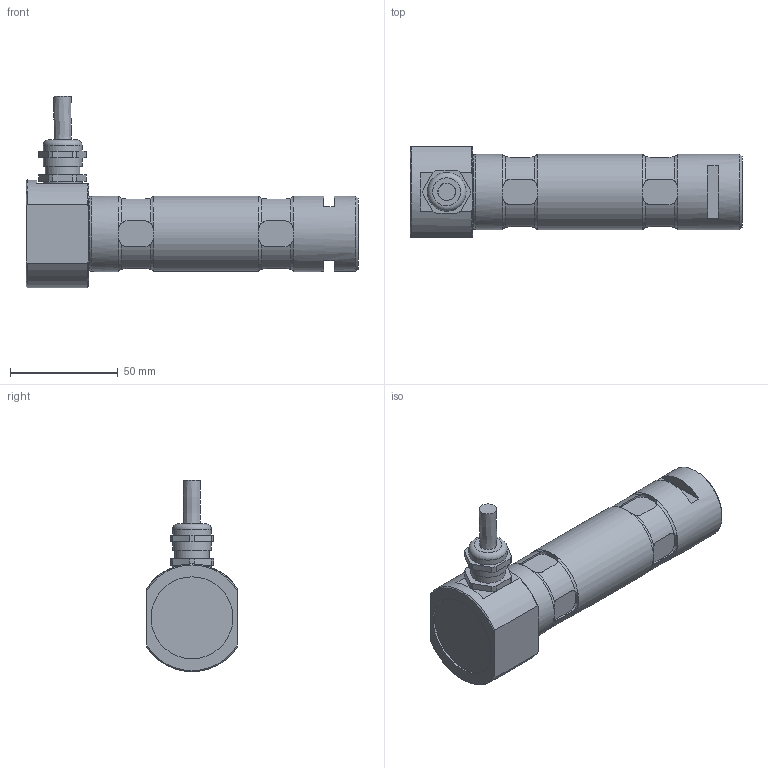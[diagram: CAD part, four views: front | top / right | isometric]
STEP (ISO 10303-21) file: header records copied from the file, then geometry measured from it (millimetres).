
FILE_DESCRIPTION(/* description */ ('Alibre Inc.'),/* implementation_level */ '2;1');
FILE_NAME(/* name */ 'export-2DBA7F17-7FB5-40A2-9591-686147B1E41E',/* time_stamp */ '2019-01-23T08:38:28+01:00',/* author */ (''),/* organization */ (''),/* preprocessor_version */ 'ST-DEVELOPER v17',/* originating_system */ 'Alibre',/* authorisation */ '');
FILE_SCHEMA (('CONFIG_CONTROL_DESIGN'));
Length unit declared in the file: millimetre
Products named in the file (6): ID_1; ID_2; ID_3
Bounding box: 154 x 42 x 88.77 mm (x, y, z)
Volume: 170528.6 mm3; surface area: 27287.5 mm2
Topology: 4 solids, 4 shells, 215 faces, 547 edges, 351 vertices
Faces by surface type: plane 113, cylinder 73, torus 19, cone 9, bspline 1
Full cylindrical faces by diameter (mm): 8 x1, 10 x1, 14.376 x1, 16 x2, 18 x2, 35 x3, 38 x1
Entity records: 9897 total; most frequent: CARTESIAN_POINT 4713, ORIENTED_EDGE 1046, DIRECTION 751, EDGE_CURVE 523, VERTEX_POINT 347, AXIS2_PLACEMENT_3D 289, VECTOR 287, LINE 287
